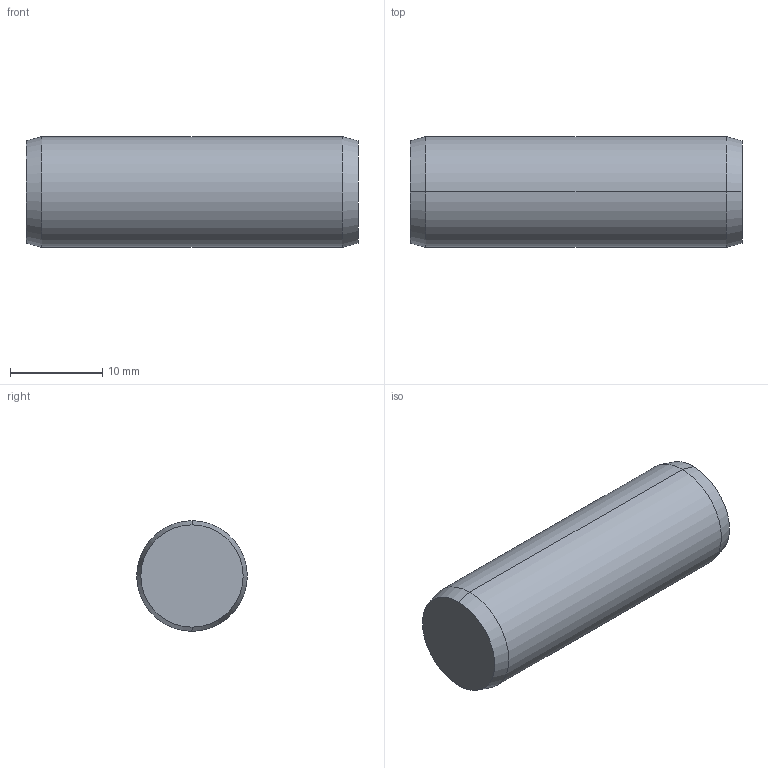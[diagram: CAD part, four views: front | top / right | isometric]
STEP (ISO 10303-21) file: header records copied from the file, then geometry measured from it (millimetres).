
FILE_DESCRIPTION (( 'STEP AP203' ), '1' );
FILE_NAME ('P1206.120-036.step', '2017-06-14T08:38:18', ( 'User' ), ( '' ), 'SwSTEP 2.0', 'SolidWorks 2009', '' );
FILE_SCHEMA (( 'CONFIG_CONTROL_DESIGN' ));
Length unit declared in the file: millimetre
Products named in the file (1): P1206.120-036
Bounding box: 36 x 12 x 12 mm (x, y, z)
Volume: 4043 mm3; surface area: 1549.8 mm2
Topology: 1 solids, 1 shells, 8 faces, 14 edges, 8 vertices
Faces by surface type: cone 4, cylinder 2, plane 2
Entity records: 271 total; most frequent: DIRECTION 40, CARTESIAN_POINT 31, ORIENTED_EDGE 28, AXIS2_PLACEMENT_3D 17, EDGE_CURVE 14, ADVANCED_FACE 8, EDGE_LOOP 8, VERTEX_POINT 8
